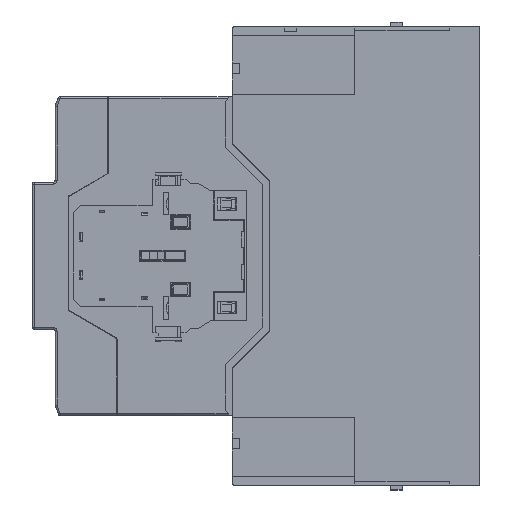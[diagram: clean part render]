
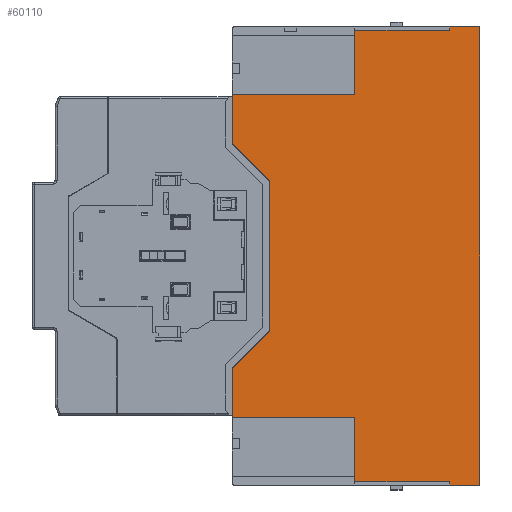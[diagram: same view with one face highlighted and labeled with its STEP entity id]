
A CAD part, left-side view. The second image highlights one B-rep face of the part: STEP entity #60110.
In plain terms, the highlighted planar face has unit normal (-1, 0, 0).
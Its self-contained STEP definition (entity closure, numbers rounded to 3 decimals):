
#155 = CARTESIAN_POINT ( 'NONE',  ( -55., 12.55, -95. ) ) ;
#5111 = CARTESIAN_POINT ( 'NONE',  ( -55., 102.55, 67. ) ) ;
#5748 = VERTEX_POINT ( 'NONE', #76262 ) ;
#8893 = LINE ( 'NONE', #120353, #150547 ) ;
#9158 = VECTOR ( 'NONE', #134285, 1000. ) ;
#11673 = DIRECTION ( 'NONE',  ( 0., 0., 1. ) ) ;
#13682 = DIRECTION ( 'NONE',  ( 0., 0., -1. ) ) ;
#14170 = CARTESIAN_POINT ( 'NONE',  ( -55., 51.85, -93.5 ) ) ;
#16505 = EDGE_CURVE ( 'NONE', #105309, #26101, #60127, .T. ) ;
#17258 = ORIENTED_EDGE ( 'NONE', *, *, #66033, .T. ) ;
#18851 = EDGE_CURVE ( 'NONE', #119073, #28270, #107054, .T. ) ;
#21396 = CARTESIAN_POINT ( 'NONE',  ( -55., 51.85, -91.3 ) ) ;
#22777 = CARTESIAN_POINT ( 'NONE',  ( -55., 51.85, 67. ) ) ;
#23332 = CARTESIAN_POINT ( 'NONE',  ( -55., 51.85, 93.5 ) ) ;
#25790 = PLANE ( 'NONE',  #62235 ) ;
#26101 = VERTEX_POINT ( 'NONE', #32505 ) ;
#26294 = CARTESIAN_POINT ( 'NONE',  ( -55., 12.55, -54.13 ) ) ;
#26380 = ORIENTED_EDGE ( 'NONE', *, *, #128782, .F. ) ;
#27418 = VERTEX_POINT ( 'NONE', #155 ) ;
#28270 = VERTEX_POINT ( 'NONE', #89983 ) ;
#28423 = DIRECTION ( 'NONE',  ( 0., 1., 0. ) ) ;
#28639 = LINE ( 'NONE', #114301, #57537 ) ;
#29231 = VECTOR ( 'NONE', #118653, 1000. ) ;
#30595 = CARTESIAN_POINT ( 'NONE',  ( -55., 12.55, 93.5 ) ) ;
#32505 = CARTESIAN_POINT ( 'NONE',  ( -55., 51.85, -67. ) ) ;
#33494 = LINE ( 'NONE', #107840, #125297 ) ;
#33780 = CARTESIAN_POINT ( 'NONE',  ( -55., 102.55, -95. ) ) ;
#35127 = CARTESIAN_POINT ( 'NONE',  ( -55., 0., -95. ) ) ;
#37982 = ORIENTED_EDGE ( 'NONE', *, *, #16505, .F. ) ;
#38542 = VERTEX_POINT ( 'NONE', #124947 ) ;
#39577 = CARTESIAN_POINT ( 'NONE',  ( -55., 102.55, 95. ) ) ;
#39953 = DIRECTION ( 'NONE',  ( 0., 0., 1. ) ) ;
#40375 = EDGE_CURVE ( 'NONE', #5748, #96289, #33494, .T. ) ;
#40529 = CARTESIAN_POINT ( 'NONE',  ( -55., 51.85, 93.5 ) ) ;
#40601 = VECTOR ( 'NONE', #158713, 1000. ) ;
#44381 = VERTEX_POINT ( 'NONE', #23332 ) ;
#45460 = EDGE_CURVE ( 'NONE', #117972, #44381, #8893, .T. ) ;
#46384 = VERTEX_POINT ( 'NONE', #122338 ) ;
#49004 = CARTESIAN_POINT ( 'NONE',  ( -55., 102.55, -95. ) ) ;
#49482 = ORIENTED_EDGE ( 'NONE', *, *, #102252, .F. ) ;
#49979 = LINE ( 'NONE', #121953, #145946 ) ;
#53525 = VERTEX_POINT ( 'NONE', #5111 ) ;
#54119 = VECTOR ( 'NONE', #73305, 1000. ) ;
#57537 = VECTOR ( 'NONE', #39953, 1000. ) ;
#60110 = ADVANCED_FACE ( 'NONE', ( #148624 ), #25790, .F. ) ;
#60127 = LINE ( 'NONE', #21396, #68398 ) ;
#61914 = LINE ( 'NONE', #49004, #63115 ) ;
#62235 = AXIS2_PLACEMENT_3D ( 'NONE', #75085, #124376, #13682 ) ;
#63115 = VECTOR ( 'NONE', #121773, 1000. ) ;
#63525 = CARTESIAN_POINT ( 'NONE',  ( -55., 102.55, -95. ) ) ;
#63773 = ORIENTED_EDGE ( 'NONE', *, *, #147095, .F. ) ;
#65121 = EDGE_CURVE ( 'NONE', #53525, #117972, #128884, .T. ) ;
#66033 = EDGE_CURVE ( 'NONE', #27418, #119073, #61914, .T. ) ;
#67782 = CARTESIAN_POINT ( 'NONE',  ( -55., 102.55, 46.8 ) ) ;
#68251 = VECTOR ( 'NONE', #135822, 1000. ) ;
#68398 = VECTOR ( 'NONE', #11673, 1000. ) ;
#69354 = VERTEX_POINT ( 'NONE', #70426 ) ;
#70147 = DIRECTION ( 'NONE',  ( 0., 0., 1. ) ) ;
#70426 = CARTESIAN_POINT ( 'NONE',  ( -55., 87., -31.25 ) ) ;
#70660 = DIRECTION ( 'NONE',  ( 0., 0.707, 0.707 ) ) ;
#72266 = CARTESIAN_POINT ( 'NONE',  ( -55., 0., -95. ) ) ;
#73305 = DIRECTION ( 'NONE',  ( 0., 0., 1. ) ) ;
#75085 = CARTESIAN_POINT ( 'NONE',  ( -55., 102.55, -95. ) ) ;
#75576 = DIRECTION ( 'NONE',  ( 0., 0., -1. ) ) ;
#75960 = LINE ( 'NONE', #39577, #68251 ) ;
#76262 = CARTESIAN_POINT ( 'NONE',  ( -55., 87., 31.25 ) ) ;
#80115 = CARTESIAN_POINT ( 'NONE',  ( -55., 12.55, 95. ) ) ;
#84888 = EDGE_CURVE ( 'NONE', #105309, #46384, #142706, .T. ) ;
#87508 = ORIENTED_EDGE ( 'NONE', *, *, #141131, .T. ) ;
#89983 = CARTESIAN_POINT ( 'NONE',  ( -55., 0., 95. ) ) ;
#93614 = CARTESIAN_POINT ( 'NONE',  ( -55., 102.55, -46.8 ) ) ;
#96289 = VERTEX_POINT ( 'NONE', #67782 ) ;
#97253 = ORIENTED_EDGE ( 'NONE', *, *, #65121, .F. ) ;
#99145 = VECTOR ( 'NONE', #153129, 1000. ) ;
#102252 = EDGE_CURVE ( 'NONE', #38542, #69354, #106526, .T. ) ;
#102684 = VECTOR ( 'NONE', #70147, 1000. ) ;
#103935 = DIRECTION ( 'NONE',  ( 0., -1., 0. ) ) ;
#104910 = ORIENTED_EDGE ( 'NONE', *, *, #40375, .F. ) ;
#105309 = VERTEX_POINT ( 'NONE', #14170 ) ;
#105723 = EDGE_LOOP ( 'NONE', ( #111293, #135095, #97253, #124802, #104910, #109473, #49482, #128494, #63773, #37982, #150709, #87508, #17258, #126526, #26380, #150837 ) ) ;
#105780 = VERTEX_POINT ( 'NONE', #80115 ) ;
#106341 = CARTESIAN_POINT ( 'NONE',  ( -55., 12.55, -93.5 ) ) ;
#106526 = LINE ( 'NONE', #93614, #29231 ) ;
#107054 = LINE ( 'NONE', #72266, #40601 ) ;
#107840 = CARTESIAN_POINT ( 'NONE',  ( -55., 87., 31.25 ) ) ;
#108113 = LINE ( 'NONE', #33780, #102684 ) ;
#109473 = ORIENTED_EDGE ( 'NONE', *, *, #146784, .F. ) ;
#109618 = EDGE_CURVE ( 'NONE', #96289, #53525, #108113, .T. ) ;
#110015 = CARTESIAN_POINT ( 'NONE',  ( -55., 87., -31.25 ) ) ;
#110462 = LINE ( 'NONE', #63525, #54119 ) ;
#111293 = ORIENTED_EDGE ( 'NONE', *, *, #128341, .T. ) ;
#114301 = CARTESIAN_POINT ( 'NONE',  ( -55., 12.55, 54.13 ) ) ;
#114447 = EDGE_CURVE ( 'NONE', #127522, #38542, #110462, .T. ) ;
#117939 = DIRECTION ( 'NONE',  ( 0., 0., 1. ) ) ;
#117972 = VERTEX_POINT ( 'NONE', #22777 ) ;
#118653 = DIRECTION ( 'NONE',  ( 0., -0.707, 0.707 ) ) ;
#119073 = VERTEX_POINT ( 'NONE', #35127 ) ;
#120353 = CARTESIAN_POINT ( 'NONE',  ( -55., 51.85, 67. ) ) ;
#121163 = DIRECTION ( 'NONE',  ( 0., 1., 0. ) ) ;
#121773 = DIRECTION ( 'NONE',  ( 0., -1., 0. ) ) ;
#121953 = CARTESIAN_POINT ( 'NONE',  ( -55., 51.85, -67. ) ) ;
#122338 = CARTESIAN_POINT ( 'NONE',  ( -55., 12.55, -93.5 ) ) ;
#124376 = DIRECTION ( 'NONE',  ( 1., 0., 0. ) ) ;
#124802 = ORIENTED_EDGE ( 'NONE', *, *, #109618, .F. ) ;
#124947 = CARTESIAN_POINT ( 'NONE',  ( -55., 102.55, -46.8 ) ) ;
#125022 = VECTOR ( 'NONE', #28423, 1000. ) ;
#125297 = VECTOR ( 'NONE', #70660, 1000. ) ;
#126526 = ORIENTED_EDGE ( 'NONE', *, *, #18851, .T. ) ;
#127522 = VERTEX_POINT ( 'NONE', #137019 ) ;
#128341 = EDGE_CURVE ( 'NONE', #153422, #44381, #139155, .T. ) ;
#128494 = ORIENTED_EDGE ( 'NONE', *, *, #114447, .F. ) ;
#128782 = EDGE_CURVE ( 'NONE', #105780, #28270, #75960, .T. ) ;
#128884 = LINE ( 'NONE', #132106, #99145 ) ;
#132106 = CARTESIAN_POINT ( 'NONE',  ( -55., 102.55, 67. ) ) ;
#134285 = DIRECTION ( 'NONE',  ( 0., 0., 1. ) ) ;
#135095 = ORIENTED_EDGE ( 'NONE', *, *, #45460, .F. ) ;
#135822 = DIRECTION ( 'NONE',  ( 0., -1., 0. ) ) ;
#137019 = CARTESIAN_POINT ( 'NONE',  ( -55., 102.55, -67. ) ) ;
#137034 = LINE ( 'NONE', #26294, #157950 ) ;
#139155 = LINE ( 'NONE', #40529, #125022 ) ;
#141131 = EDGE_CURVE ( 'NONE', #46384, #27418, #137034, .T. ) ;
#142706 = LINE ( 'NONE', #106341, #151940 ) ;
#144484 = EDGE_CURVE ( 'NONE', #153422, #105780, #28639, .T. ) ;
#145946 = VECTOR ( 'NONE', #121163, 1000. ) ;
#146784 = EDGE_CURVE ( 'NONE', #69354, #5748, #149563, .T. ) ;
#147095 = EDGE_CURVE ( 'NONE', #26101, #127522, #49979, .T. ) ;
#148624 = FACE_OUTER_BOUND ( 'NONE', #105723, .T. ) ;
#149563 = LINE ( 'NONE', #110015, #9158 ) ;
#150547 = VECTOR ( 'NONE', #117939, 1000. ) ;
#150709 = ORIENTED_EDGE ( 'NONE', *, *, #84888, .T. ) ;
#150837 = ORIENTED_EDGE ( 'NONE', *, *, #144484, .F. ) ;
#151940 = VECTOR ( 'NONE', #103935, 1000. ) ;
#153129 = DIRECTION ( 'NONE',  ( 0., -1., 0. ) ) ;
#153422 = VERTEX_POINT ( 'NONE', #30595 ) ;
#157950 = VECTOR ( 'NONE', #75576, 1000. ) ;
#158713 = DIRECTION ( 'NONE',  ( 0., 0., 1. ) ) ;
